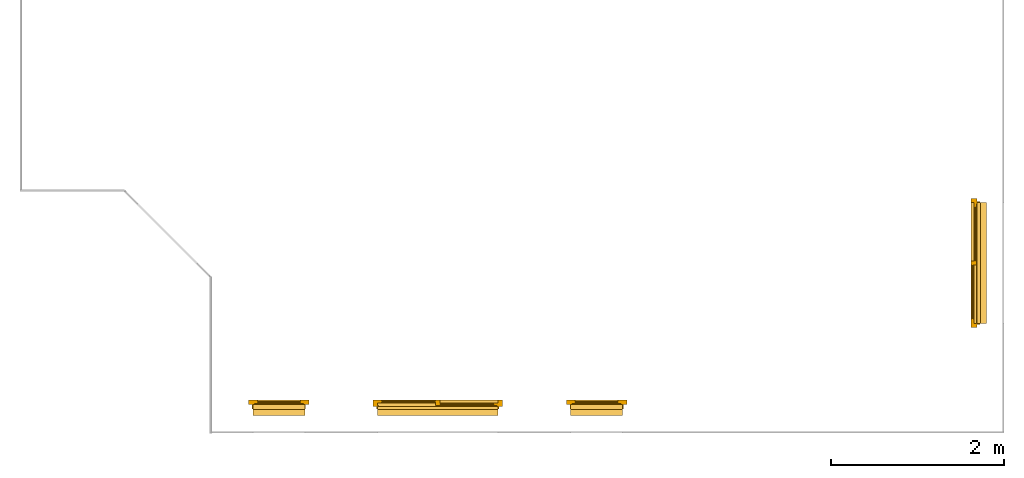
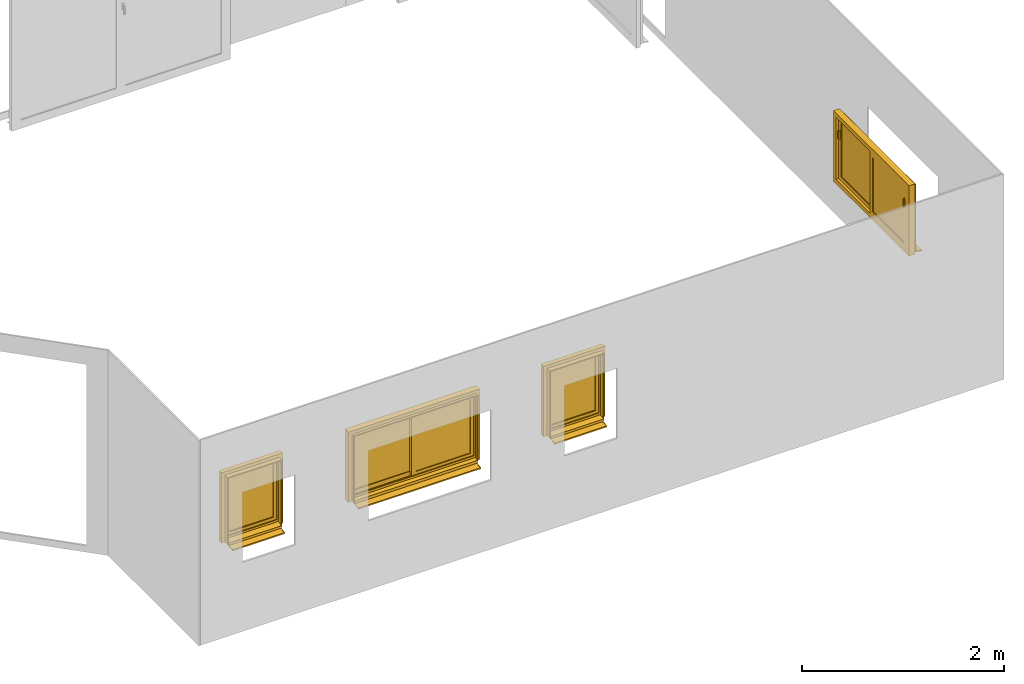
# One storey, part 3 of 6: 4 windows.
"""IFC2X3 building model written with IfcOpenShell, lengths in centimetres."""

from ifc_helpers import new_model, entity, si_unit, converted_unit, derived_unit, direction, frame, origin, place, context, subcontext, project, spatial, faceted_brep, source, transform, mapped, material, material_list, type_object, type_shapes, element, save


model = new_model("IFC2X3")

# Units and contexts
model_context = context("Model", 3, precision=0.001, world=origin(), true_north=direction((6.12303176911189e-17, 1.0)))
body_context = subcontext(model_context, "Body", "Model", "MODEL_VIEW")
ifc_project = project(units=[si_unit("LENGTHUNIT", "METRE", prefix="CENTI"), si_unit("AREAUNIT", "SQUARE_METRE"), si_unit("VOLUMEUNIT", "CUBIC_METRE"), converted_unit("PLANEANGLEUNIT", "DEGREE", entity("IfcRatioMeasure", 0.0174532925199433), si_unit("PLANEANGLEUNIT", "RADIAN"), dimensions=[0, 0, 0, 0, 0, 0, 0]), si_unit("MASSUNIT", "GRAM", prefix="KILO"), derived_unit("MASSDENSITYUNIT", [(si_unit("MASSUNIT", "GRAM", prefix="KILO"), 1), (si_unit("LENGTHUNIT", "METRE"), -3)]), derived_unit("MOMENTOFINERTIAUNIT", [(si_unit("LENGTHUNIT", "METRE"), 4)]), si_unit("TIMEUNIT", "SECOND"), si_unit("FREQUENCYUNIT", "HERTZ"), si_unit("THERMODYNAMICTEMPERATUREUNIT", "DEGREE_CELSIUS"), derived_unit("THERMALTRANSMITTANCEUNIT", [(si_unit("MASSUNIT", "GRAM", prefix="KILO"), 1), (si_unit("THERMODYNAMICTEMPERATUREUNIT", "KELVIN"), -1), (si_unit("TIMEUNIT", "SECOND"), -3)]), derived_unit("VOLUMETRICFLOWRATEUNIT", [(si_unit("LENGTHUNIT", "METRE"), 3), (si_unit("TIMEUNIT", "SECOND"), -1)]), si_unit("ELECTRICCURRENTUNIT", "AMPERE"), si_unit("ELECTRICVOLTAGEUNIT", "VOLT"), si_unit("POWERUNIT", "WATT"), si_unit("FORCEUNIT", "NEWTON", prefix="KILO"), si_unit("ILLUMINANCEUNIT", "LUX"), si_unit("LUMINOUSFLUXUNIT", "LUMEN"), si_unit("LUMINOUSINTENSITYUNIT", "CANDELA"), derived_unit("USERDEFINED", [(si_unit("MASSUNIT", "GRAM", prefix="KILO"), -1), (si_unit("LENGTHUNIT", "METRE"), -2), (si_unit("TIMEUNIT", "SECOND"), 3), (si_unit("LUMINOUSFLUXUNIT", "LUMEN"), 1)]), derived_unit("LINEARVELOCITYUNIT", [(si_unit("LENGTHUNIT", "METRE"), 1), (si_unit("TIMEUNIT", "SECOND"), -1)]), si_unit("PRESSUREUNIT", "PASCAL"), derived_unit("USERDEFINED", [(si_unit("LENGTHUNIT", "METRE"), -2), (si_unit("MASSUNIT", "GRAM", prefix="KILO"), 1), (si_unit("TIMEUNIT", "SECOND"), -2)]), derived_unit("LINEARFORCEUNIT", [(si_unit("MASSUNIT", "GRAM", prefix="KILO"), 1), (si_unit("LENGTHUNIT", "METRE"), 1), (si_unit("TIMEUNIT", "SECOND"), -2), (si_unit("LENGTHUNIT", "METRE"), -1)]), derived_unit("PLANARFORCEUNIT", [(si_unit("MASSUNIT", "GRAM", prefix="KILO"), 1), (si_unit("LENGTHUNIT", "METRE"), 1), (si_unit("TIMEUNIT", "SECOND"), -2), (si_unit("LENGTHUNIT", "METRE"), -2)])], contexts=[model_context])

# Site, building, storey
site_placement = place(None, origin())
site = spatial("IfcSite", under=ifc_project, at=site_placement, Name="Surface", CompositionType="ELEMENT")
building_placement = place(site_placement, origin())
building = spatial("IfcBuilding", under=site, at=building_placement, CompositionType="ELEMENT")
storey_placement = place(building_placement, origin())
storey = spatial("IfcBuildingStorey", under=building, at=storey_placement, Name="1_Rez-de-chaussée", CompositionType="ELEMENT", Elevation=-7.93413063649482e-11)

# Windows
ifc_material_1 = material(Name="Fenêtre - Poignée")
ifc_material_2 = material(Name="Fenêtre - Appui")
ifc_material_3 = material(Name="Fenêtre - Vitrage")
ifc_material_4 = material(Name="Fenêtre - Cadre")
ifc_material_list_1 = material_list([ifc_material_1, ifc_material_2, ifc_material_3, ifc_material_4])
ifc_material_list_2 = material_list([ifc_material_2, ifc_material_4, ifc_material_1, ifc_material_3])
window_style_1 = type_object("IfcWindowStyle", Name="1 Vantail - Droit blanc:60/80", ConstructionType="NOTDEFINED", OperationType="SINGLE_PANEL", ParameterTakesPrecedence=False, Sizeable=False, material=ifc_material_list_2)
shared_shape_1 = source(origin(), body_context, "Body", "Brep", [
    faceted_brep([(8.06460096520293, -58.600000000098, 68.9586046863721), (8.20339292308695, -58.600000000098, 68.8198127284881), (8.20339292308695, -58.600000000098, 67.6884418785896), (8.0667698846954, -58.600000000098, 67.551818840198), (6.93323011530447, -58.600000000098, 67.551818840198), (6.79660707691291, -58.600000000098, 67.6884418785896), (6.79660707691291, -58.600000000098, 68.8198127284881), (6.93539903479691, -58.600000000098, 68.9586046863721), (8.06460096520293, -59.8913548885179, 68.9586046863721), (8.20339292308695, -59.833865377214, 68.8198127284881), (8.20339292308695, -61.164600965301, 67.4890771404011), (8.20339292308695, -61.164600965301, 58.7552117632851), (8.20339292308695, -60.0332301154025, 58.7552117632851), (8.20339292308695, -60.0332301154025, 67.0204479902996), (8.20339292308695, -59.3652362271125, 67.6884418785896), (8.0667698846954, -59.3086451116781, 67.551818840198), (6.93323011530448, -59.3086451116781, 67.551818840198), (6.79660707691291, -59.3652362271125, 67.6884418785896), (6.79660707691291, -60.0332301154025, 67.0204479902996), (6.79660707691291, -60.0332301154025, 58.7552117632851), (6.79660707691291, -61.164600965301, 58.7552117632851), (6.79660707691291, -61.164600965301, 67.4890771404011), (6.79660707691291, -59.833865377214, 68.8198127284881), (6.93539903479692, -59.8913548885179, 68.9586046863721), (8.06460096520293, -61.303392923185, 67.546566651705), (8.0667698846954, -59.8966070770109, 66.9638568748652), (6.93323011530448, -59.8966070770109, 66.9638568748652), (6.93539903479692, -61.303392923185, 67.546566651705), (8.06460096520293, -61.303392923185, 58.7552117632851), (6.93539903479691, -61.303392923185, 58.7552117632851), (6.93323011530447, -59.8966070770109, 58.7552117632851), (8.0667698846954, -59.8966070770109, 58.7552117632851)], [[[0, 1, 2, 3, 4, 5, 6, 7]], [[1, 0, 8, 9]], [[2, 1, 9, 10, 11, 12, 13, 14]], [[3, 2, 14, 15]], [[4, 3, 15, 16]], [[5, 4, 16, 17]], [[6, 5, 17, 18, 19, 20, 21, 22]], [[7, 6, 22, 23]], [[0, 7, 23, 8]], [[9, 8, 24, 10]], [[15, 14, 13, 25]], [[16, 15, 25, 26]], [[17, 16, 26, 18]], [[23, 22, 21, 27]], [[8, 23, 27, 24]], [[28, 29, 20, 19, 30, 31, 12, 11]], [[10, 24, 28, 11]], [[25, 13, 12, 31]], [[26, 25, 31, 30]], [[18, 26, 30, 19]], [[27, 21, 20, 29]], [[24, 27, 29, 28]]]),
    faceted_brep([(8.20000000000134, -58.6000000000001, 70.7552117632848), (6.79999999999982, -58.6000000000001, 70.7552117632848), (6.29999999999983, -58.6000000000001, 70.2552117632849), (6.29999999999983, -58.6000000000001, 63.2552117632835), (6.79999999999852, -58.6000000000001, 62.7552117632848), (8.20000000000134, -58.6000000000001, 62.7552117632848), (8.69999999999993, -58.6000000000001, 63.2552117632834), (8.69999999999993, -58.6000000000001, 70.2552117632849), (8.20000000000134, -58.0, 70.7552117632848), (8.69999999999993, -58.0, 70.2552117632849), (8.69999999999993, -58.0, 63.2552117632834), (8.20000000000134, -58.0, 62.7552117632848), (6.79999999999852, -58.0, 62.7552117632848), (6.29999999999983, -58.0, 63.2552117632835), (6.29999999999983, -58.0, 70.2552117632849), (6.79999999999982, -58.0, 70.7552117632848)], [[[0, 1, 2, 3, 4, 5, 6, 7]], [[8, 9, 10, 11, 12, 13, 14, 15]], [[1, 0, 8, 15]], [[2, 1, 15, 14]], [[3, 2, 14, 13]], [[4, 3, 13, 12]], [[5, 4, 12, 11]], [[6, 5, 11, 10]], [[7, 6, 10, 9]], [[0, 7, 9, 8]]]),
    faceted_brep([(65.0, -40.4999999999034, 4.78224270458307), (65.0, -49.4999999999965, 5.72818082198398), (65.0, -49.4999999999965, 6.75521176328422), (65.0, -50.0, 6.75521176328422), (65.0, -50.0, 5.25521176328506), (65.0, -41.0, 4.30927364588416), (65.0, -41.0, 3.27922317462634), (65.0, -40.4999999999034, 3.2266710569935), (5.0, -40.4999999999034, 4.78224270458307), (5.0, -40.4999999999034, 3.2266710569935), (5.0, -41.0, 3.27922317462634), (5.0, -41.0, 4.30927364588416), (5.0, -50.0, 5.25521176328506), (5.0, -50.0, 6.75521176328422), (5.0, -49.4999999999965, 6.75521176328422), (5.0, -49.4999999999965, 5.72818082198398)], [[[0, 1, 2, 3, 4, 5, 6, 7]], [[8, 9, 10, 11, 12, 13, 14, 15]], [[1, 0, 8, 15]], [[2, 1, 15, 14]], [[3, 2, 14, 13]], [[4, 3, 13, 12]], [[5, 4, 12, 11]], [[6, 5, 11, 10]], [[7, 6, 10, 9]], [[0, 7, 9, 8]]]),
    faceted_brep([(5.0, -40.4999999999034, 4.92483522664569), (5.0, -40.4999999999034, 4.78224270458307), (5.0, -49.4999999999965, 5.72818082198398), (5.0, -49.4999999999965, 6.23093496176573), (5.0, -40.8581886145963, 5.32264398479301), (5.0, -40.6027420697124, 5.19248746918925), (5.49999999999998, -49.4999999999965, 6.23093496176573), (5.49999999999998, -49.4999999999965, 5.72818082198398), (5.49999999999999, -40.4999999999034, 4.78224270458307), (5.49999999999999, -40.4999999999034, 4.92483522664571), (5.49999999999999, -40.6027420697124, 5.19248746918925), (5.49999999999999, -40.8581886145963, 5.32264398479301)], [[[0, 1, 2, 3, 4, 5]], [[6, 7, 8, 9, 10, 11]], [[2, 1, 8, 7]], [[3, 2, 7, 6]], [[4, 3, 6, 11]], [[4, 11, 10, 5]], [[10, 9, 0, 5]], [[1, 0, 9, 8]]]),
    faceted_brep([(64.5, -40.4999999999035, 4.92483522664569), (64.5, -40.4999999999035, 4.78224270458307), (64.5, -49.4999999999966, 5.72818082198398), (64.5, -49.4999999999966, 6.23093496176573), (64.5, -40.8581886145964, 5.322643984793), (64.5, -40.6027420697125, 5.19248746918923), (65.0, -49.4999999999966, 6.23093496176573), (65.0, -49.4999999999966, 5.72818082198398), (65.0, -40.4999999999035, 4.78224270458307), (65.0, -40.4999999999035, 4.92483522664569), (65.0, -40.6027420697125, 5.19248746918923), (65.0, -40.8581886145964, 5.322643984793)], [[[0, 1, 2, 3, 4, 5]], [[6, 7, 8, 9, 10, 11]], [[2, 1, 8, 7]], [[3, 2, 7, 6]], [[4, 3, 6, 11]], [[4, 11, 10, 5]], [[10, 9, 0, 5]], [[1, 0, 9, 8]]]),
    faceted_brep([(10.0, -55.4000000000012, 16.7552117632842), (10.0, -55.4000000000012, 81.7552117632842), (60.0, -55.4000000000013, 81.7552117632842), (60.0, -55.4000000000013, 16.7552117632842), (10.0, -56.6000000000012, 16.7552117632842), (10.0, -56.6000000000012, 81.7552117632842), (60.0, -56.6000000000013, 81.7552117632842), (60.0, -56.6000000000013, 16.7552117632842)], [[[0, 1, 2, 3]], [[1, 0, 4, 5]], [[3, 2, 6, 7]], [[0, 3, 7, 4]], [[4, 7, 6, 5]], [[2, 1, 5, 6]]]),
    faceted_brep([(10.0, -54.0, 81.7552117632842), (10.0, -58.0, 81.7552117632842), (10.0, -58.0, 16.7552117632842), (10.0, -54.0, 16.7552117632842), (60.0, -58.0, 16.7552117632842), (60.0, -54.0, 16.7552117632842), (60.0, -58.0, 81.7552117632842), (65.0, -58.0, 11.7552117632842), (65.0, -58.0, 86.7552117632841), (5.0, -58.0, 86.7552117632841), (5.0, -58.0, 11.7552117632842), (60.0, -54.0, 81.7552117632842), (5.0, -54.0, 11.7552117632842), (5.0, -54.0, 86.7552117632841), (65.0, -54.0, 86.7552117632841), (65.0, -54.0, 11.7552117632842)], [[[0, 1, 2, 3]], [[3, 2, 4, 5]], [[2, 1, 6, 4], [7, 8, 9, 10]], [[5, 4, 6, 11]], [[5, 11, 0, 3], [12, 13, 14, 15]], [[9, 13, 12, 10]], [[10, 12, 15, 7]], [[7, 15, 14, 8]], [[11, 6, 1, 0]], [[8, 14, 13, 9]]], outer=[[True], [True], [False, True], [True], [False, True], [True], [True], [True], [True], [True]]),
    faceted_brep([(0.0, -58.0, 6.75521176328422), (0.0, -53.0, 6.75521176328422), (5.0, -53.0, 6.75521176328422), (5.0, -48.0, 6.75521176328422), (65.0, -48.0, 6.75521176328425), (65.0, -53.0, 6.75521176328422), (70.0, -53.0, 6.75521176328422), (70.0, -58.0, 6.75521176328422), (0.0, -58.0, 91.7552117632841), (0.0, -53.0, 91.7552117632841), (70.0, -53.0, 91.7552117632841), (65.0, -53.0, 10.6928260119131), (5.0, -53.0, 10.6928260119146), (6.49999999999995, -53.0, 85.2552117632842), (6.49999999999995, -53.0, 13.2552117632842), (63.5, -53.0, 13.2552117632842), (63.5, -53.0, 85.2552117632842), (5.0, -47.0, 9.08513085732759), (5.0, -47.0, 6.25521176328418), (5.0, -48.0, 6.25521176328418), (65.0, -48.0, 6.25521176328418), (65.0, -47.0, 6.25521176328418), (65.0, -47.0, 9.08513085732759), (70.0, -58.0, 91.7552117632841), (65.0, -58.0, 86.7552117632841), (65.0, -58.0, 11.7552117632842), (5.0, -58.0, 11.7552117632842), (5.0, -58.0, 86.7552117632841), (6.49999999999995, -54.0, 85.2552117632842), (6.49999999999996, -54.0, 13.2552117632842), (63.5, -54.0, 13.2552117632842), (63.5, -54.0, 85.2552117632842), (65.0, -54.0, 86.7552117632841), (5.0, -54.0, 86.7552117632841), (5.0, -54.0, 11.7552117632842), (65.0, -54.0, 11.7552117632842)], [[[0, 1, 2, 3, 4, 5, 6, 7]], [[1, 0, 8, 9]], [[1, 9, 10, 6, 5, 11, 12, 2], [13, 14, 15, 16]], [[12, 17, 18, 19, 3, 2]], [[3, 19, 20, 4]], [[4, 20, 21, 22, 11, 5]], [[6, 10, 23, 7]], [[0, 7, 23, 8], [24, 25, 26, 27]], [[13, 28, 29, 14]], [[29, 30, 15, 14]], [[31, 16, 15, 30]], [[17, 12, 11, 22]], [[32, 33, 34, 35], [28, 31, 30, 29]], [[34, 33, 27, 26]], [[26, 25, 35, 34]], [[24, 32, 35, 25]], [[18, 17, 22, 21]], [[19, 18, 21, 20]], [[13, 16, 31, 28]], [[33, 32, 24, 27]], [[10, 9, 8, 23]]]),
    faceted_brep([(5.0, -48.0, 6.75521176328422), (5.0, -53.0, 6.75521176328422), (4.0, -53.0, 6.75521176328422), (4.0, -48.0, 6.75521176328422), (5.0, -48.0, 86.7552117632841), (5.0, -53.0, 86.7552117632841), (65.0, -53.0, 86.7552117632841), (65.0, -53.0, 6.75521176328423), (66.0, -53.0, 6.75521176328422), (66.0, -53.0, 87.7552117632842), (4.0, -53.0, 87.7552117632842), (4.0, -48.0, 87.7552117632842), (66.0, -48.0, 87.7552117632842), (66.0, -48.0, 6.75521176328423), (65.0, -48.0, 6.75521176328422), (65.0, -48.0, 86.7552117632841)], [[[0, 1, 2, 3]], [[1, 0, 4, 5]], [[2, 1, 5, 6, 7, 8, 9, 10]], [[3, 2, 10, 11]], [[0, 3, 11, 12, 13, 14, 15, 4]], [[6, 15, 14, 7]], [[14, 13, 8, 7]], [[12, 9, 8, 13]], [[5, 4, 15, 6]], [[11, 10, 9, 12]]]),
])
type_shapes(window_style_1, [shared_shape_1])
window_1_placement = place(storey_placement, frame((-1087.17726031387, -181.007682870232, 73.2447882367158), z_axis=(0.0, 0.0, 1.0), x_axis=(-1.0, 0.0, 0.0)))
element("IfcWindow", 1, at=window_1_placement, inside=storey, type_object=window_style_1, material=ifc_material_list_1, Name="1 Vantail - Droit blanc:60/80", ObjectType="1 Vantail - Droit blanc:60/80", OverallHeight=108.0, OverallWidth=69.9999999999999, context=body_context, shape_type="MappedRepresentation", body=[
    mapped(shared_shape_1, transform((0.0, 0.0, 0.0), scale=1.0)),
])
ifc_material_list_3 = material_list([ifc_material_1, ifc_material_2, ifc_material_3, ifc_material_4])
window_2_placement = place(storey_placement, frame((-1455.17726031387, -181.007682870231, 73.2447882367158), z_axis=(0.0, 0.0, 1.0), x_axis=(-1.0, 0.0, 0.0)))
element("IfcWindow", 2, at=window_2_placement, inside=storey, type_object=window_style_1, material=ifc_material_list_3, Name="1 Vantail - Droit blanc:60/80", ObjectType="1 Vantail - Droit blanc:60/80", OverallHeight=108.0, OverallWidth=69.9999999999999, context=body_context, shape_type="MappedRepresentation", body=[
    mapped(shared_shape_1, transform((0.0, 0.0, 0.0), scale=1.0)),
])
ifc_material_list_4 = material_list([ifc_material_1, ifc_material_2, ifc_material_3, ifc_material_4])
ifc_material_list_5 = material_list([ifc_material_4, ifc_material_3, ifc_material_1, ifc_material_2])
window_style_2 = type_object("IfcWindowStyle", Name="2 Vantaux coulissants - Droits blanc:140/80", ConstructionType="NOTDEFINED", OperationType="DOUBLE_PANEL_VERTICAL", ParameterTakesPrecedence=False, Sizeable=False, material=ifc_material_list_5)
shared_shape_2 = source(origin(), body_context, "Body", "Brep", [
    faceted_brep([(8.75313182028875, -57.0, 61.755211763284), (7.09522174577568, -57.0, 61.755211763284), (7.09522174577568, -56.4999999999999, 61.755211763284), (8.0, -56.4999999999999, 61.755211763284), (8.0, -55.0, 61.755211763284), (9.0, -55.0, 61.755211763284), (9.0, -56.753131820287, 61.755211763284), (8.0, -55.0, 71.7552117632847), (8.0, -56.4999999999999, 71.7552117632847), (7.0952217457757, -56.4999999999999, 71.7552117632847), (7.0952217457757, -57.0, 71.7552117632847), (8.7531318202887, -57.0, 71.7552117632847), (9.0, -56.753131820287, 71.7552117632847), (9.0, -55.0, 71.7552117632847), (6.50000000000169, -56.4999999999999, 62.3504335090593), (6.50000000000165, -56.4999999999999, 71.1599900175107), (6.67433641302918, -56.4999999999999, 71.5808753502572), (6.67433641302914, -56.4999999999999, 61.9295481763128), (6.50000000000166, -57.0, 71.1599900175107), (6.50000000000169, -57.0, 62.3504335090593), (6.67433641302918, -57.0, 71.5808753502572), (6.67433641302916, -57.0, 61.9295481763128)], [[[0, 1, 2, 3, 4, 5, 6]], [[7, 8, 9, 10, 11, 12, 13]], [[12, 6, 5, 13]], [[13, 5, 4, 7]], [[7, 4, 3, 8]], [[14, 15, 16, 9, 8, 3, 2, 17]], [[18, 15, 14, 19]], [[1, 0, 11, 10, 20, 18, 19, 21]], [[11, 0, 6, 12]], [[9, 16, 20, 10]], [[15, 18, 20, 16]], [[14, 17, 21, 19]], [[2, 1, 21, 17]]]),
    faceted_brep([(142.0, -59.5000000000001, 61.755211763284), (142.904778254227, -59.5000000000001, 61.755211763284), (142.904778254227, -60.0, 61.755211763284), (141.246868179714, -60.0, 61.755211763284), (141.0, -59.7531318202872, 61.755211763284), (141.0, -58.0, 61.755211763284), (142.0, -58.0, 61.755211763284), (141.0, -58.0, 71.7552117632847), (141.0, -59.7531318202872, 71.7552117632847), (141.246868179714, -60.0, 71.7552117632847), (142.904778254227, -60.0, 71.7552117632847), (142.904778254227, -59.5000000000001, 71.7552117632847), (142.0, -59.5000000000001, 71.7552117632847), (142.0, -58.0, 71.7552117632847), (143.325663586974, -59.5000000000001, 71.5808753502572), (143.500000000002, -59.5000000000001, 71.1599900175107), (143.500000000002, -59.5000000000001, 62.3504335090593), (143.325663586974, -59.5000000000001, 61.9295481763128), (143.500000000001, -60.0, 62.3504335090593), (143.500000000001, -60.0, 71.1599900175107), (143.325663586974, -60.0, 61.9295481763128), (143.325663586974, -60.0, 71.5808753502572)], [[[0, 1, 2, 3, 4, 5, 6]], [[7, 8, 9, 10, 11, 12, 13]], [[5, 4, 8, 7]], [[6, 5, 7, 13]], [[0, 6, 13, 12]], [[1, 0, 12, 11, 14, 15, 16, 17]], [[18, 16, 15, 19]], [[20, 18, 19, 21, 10, 9, 3, 2]], [[4, 3, 9, 8]], [[10, 21, 14, 11]], [[14, 21, 19, 15]], [[18, 20, 17, 16]], [[17, 20, 2, 1]]]),
    faceted_brep([(145.0, -40.4999999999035, 4.78224270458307), (145.0, -49.4999999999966, 5.72818082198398), (145.0, -49.4999999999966, 6.75521176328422), (145.0, -50.0, 6.75521176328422), (145.0, -50.0, 5.25521176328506), (145.0, -41.0, 4.30927364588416), (145.0, -41.0, 3.27922317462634), (145.0, -40.4999999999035, 3.2266710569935), (5.0, -40.4999999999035, 4.78224270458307), (5.0, -40.4999999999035, 3.2266710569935), (5.0, -41.0, 3.27922317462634), (5.0, -41.0, 4.30927364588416), (5.0, -50.0, 5.25521176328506), (5.0, -50.0, 6.75521176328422), (5.0, -49.4999999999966, 6.75521176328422), (5.0, -49.4999999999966, 5.72818082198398)], [[[0, 1, 2, 3, 4, 5, 6, 7]], [[8, 9, 10, 11, 12, 13, 14, 15]], [[1, 0, 8, 15]], [[2, 1, 15, 14]], [[3, 2, 14, 13]], [[4, 3, 13, 12]], [[5, 4, 12, 11]], [[6, 5, 11, 10]], [[7, 6, 10, 9]], [[0, 7, 9, 8]]]),
    faceted_brep([(5.0, -40.4999999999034, 4.92483522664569), (5.0, -40.4999999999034, 4.78224270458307), (5.0, -49.4999999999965, 5.72818082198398), (5.0, -49.4999999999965, 6.23093496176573), (5.0, -40.8581886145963, 5.32264398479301), (5.0, -40.6027420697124, 5.19248746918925), (5.50000000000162, -49.4999999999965, 6.23093496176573), (5.50000000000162, -49.4999999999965, 5.72818082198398), (5.50000000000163, -40.4999999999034, 4.78224270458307), (5.50000000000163, -40.4999999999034, 4.92483522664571), (5.50000000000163, -40.6027420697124, 5.19248746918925), (5.50000000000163, -40.8581886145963, 5.32264398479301)], [[[0, 1, 2, 3, 4, 5]], [[6, 7, 8, 9, 10, 11]], [[2, 1, 8, 7]], [[3, 2, 7, 6]], [[4, 3, 6, 11]], [[4, 11, 10, 5]], [[10, 9, 0, 5]], [[1, 0, 9, 8]]]),
    faceted_brep([(144.500000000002, -40.4999999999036, 4.92483522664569), (144.500000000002, -40.4999999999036, 4.78224270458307), (144.500000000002, -49.4999999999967, 5.72818082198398), (144.500000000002, -49.4999999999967, 6.23093496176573), (144.500000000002, -40.8581886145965, 5.322643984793), (144.500000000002, -40.6027420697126, 5.19248746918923), (145.0, -49.4999999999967, 6.23093496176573), (145.0, -49.4999999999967, 5.72818082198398), (145.0, -40.4999999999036, 4.78224270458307), (145.0, -40.4999999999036, 4.92483522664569), (145.0, -40.6027420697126, 5.19248746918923), (145.0, -40.8581886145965, 5.322643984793)], [[[0, 1, 2, 3, 4, 5]], [[6, 7, 8, 9, 10, 11]], [[2, 1, 8, 7]], [[3, 2, 7, 6]], [[4, 3, 6, 11]], [[4, 11, 10, 5]], [[10, 9, 0, 5]], [[1, 0, 9, 8]]]),
    faceted_brep([(72.5000000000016, -52.9000000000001, 81.7552117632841), (72.5000000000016, -52.9000000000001, 16.7552117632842), (10.0, -52.8999999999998, 16.7552117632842), (10.0, -52.8999999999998, 81.7552117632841), (72.5000000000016, -54.1000000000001, 81.7552117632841), (72.5000000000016, -54.1000000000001, 16.7552117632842), (10.0, -54.0999999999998, 16.7552117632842), (10.0, -54.0999999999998, 81.7552117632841)], [[[0, 1, 2, 3]], [[1, 0, 4, 5]], [[2, 1, 5, 6]], [[3, 2, 6, 7]], [[4, 7, 6, 5]], [[0, 3, 7, 4]]]),
    faceted_brep([(77.5000000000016, -52.0, 86.7552117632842), (77.5000000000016, -55.0, 86.7552117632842), (77.5000000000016, -55.0, 11.7552117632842), (77.5000000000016, -52.0, 11.7552117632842), (5.0, -55.0, 11.7552117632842), (5.0, -52.0, 11.7552117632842), (5.0, -55.0, 86.7552117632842), (10.0, -55.0, 16.7552117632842), (10.0, -55.0, 81.7552117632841), (72.5000000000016, -55.0, 81.7552117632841), (72.5000000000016, -55.0, 16.7552117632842), (5.0, -52.0, 86.7552117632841), (72.5000000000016, -52.0, 16.7552117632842), (72.5000000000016, -52.0, 81.7552117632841), (10.0, -52.0, 81.7552117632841), (10.0, -52.0, 16.7552117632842)], [[[0, 1, 2, 3]], [[3, 2, 4, 5]], [[2, 1, 6, 4], [7, 8, 9, 10]], [[5, 4, 6, 11]], [[5, 11, 0, 3], [12, 13, 14, 15]], [[9, 13, 12, 10]], [[10, 12, 15, 7]], [[7, 15, 14, 8]], [[11, 6, 1, 0]], [[8, 14, 13, 9]]]),
    faceted_brep([(77.5000000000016, -55.9000000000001, 16.7552117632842), (77.5000000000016, -55.9000000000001, 81.7552117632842), (140.0, -55.9000000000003, 81.7552117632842), (140.0, -55.9000000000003, 16.7552117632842), (77.5000000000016, -57.1000000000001, 16.7552117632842), (77.5000000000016, -57.1000000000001, 81.7552117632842), (140.0, -57.1000000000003, 81.7552117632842), (140.0, -57.1000000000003, 16.7552117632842)], [[[0, 1, 2, 3]], [[1, 0, 4, 5]], [[3, 2, 6, 7]], [[0, 3, 7, 4]], [[4, 7, 6, 5]], [[2, 1, 5, 6]]]),
    faceted_brep([(77.5000000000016, -55.0, 81.7552117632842), (77.5000000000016, -58.0, 81.7552117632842), (77.5000000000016, -58.0, 16.7552117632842), (77.5000000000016, -55.0, 16.7552117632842), (140.0, -58.0, 16.7552117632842), (140.0, -55.0, 16.7552117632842), (140.0, -58.0, 81.7552117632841), (145.0, -58.0, 11.7552117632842), (145.0, -58.0, 86.7552117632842), (72.5000000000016, -58.0, 86.7552117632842), (72.5000000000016, -58.0, 11.7552117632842), (140.0, -55.0, 81.7552117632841), (72.5000000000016, -55.0, 11.7552117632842), (72.5000000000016, -55.0, 86.7552117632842), (145.0, -55.0, 86.7552117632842), (145.0, -55.0, 11.7552117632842)], [[[0, 1, 2, 3]], [[3, 2, 4, 5]], [[2, 1, 6, 4], [7, 8, 9, 10]], [[5, 4, 6, 11]], [[5, 11, 0, 3], [12, 13, 14, 15]], [[9, 13, 12, 10]], [[10, 12, 15, 7]], [[7, 15, 14, 8]], [[11, 6, 1, 0]], [[8, 14, 13, 9]]], outer=[[True], [True], [False, True], [True], [False, True], [True], [True], [True], [True], [True]]),
    faceted_brep([(0.0, -58.0, 6.75521176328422), (0.0, -51.0, 6.75521176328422), (5.0, -51.0, 6.75521176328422), (5.0, -48.0, 6.75521176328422), (145.0, -48.0, 6.75521176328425), (145.0, -51.0, 6.75521176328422), (150.0, -51.0, 6.75521176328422), (150.0, -58.0, 6.75521176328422), (0.0, -58.0, 91.7552117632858), (0.0, -51.0, 91.7552117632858), (150.0, -51.0, 91.7552117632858), (145.0, -51.0, 10.6928260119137), (5.0, -51.0, 10.6928260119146), (6.50000000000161, -51.0, 85.2552117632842), (6.50000000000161, -51.0, 13.2552117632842), (143.500000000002, -51.0, 13.2552117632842), (143.500000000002, -51.0, 85.2552117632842), (5.0, -47.0, 9.62102924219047), (5.0, -47.0, 6.25521176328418), (5.0, -48.0, 6.25521176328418), (145.0, -48.0, 6.25521176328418), (145.0, -47.0, 6.25521176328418), (145.0, -47.0, 9.62102924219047), (150.0, -58.0, 91.7552117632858), (145.0, -58.0, 86.7552117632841), (145.0, -58.0, 11.7552117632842), (5.0, -58.0, 11.7552117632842), (5.0, -58.0, 86.7552117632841), (6.50000000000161, -52.0, 85.2552117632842), (6.50000000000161, -52.0, 13.2552117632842), (143.500000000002, -52.0, 13.2552117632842), (143.500000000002, -52.0, 85.2552117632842), (145.0, -52.0, 86.7552117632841), (5.0, -52.0, 86.7552117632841), (5.0, -52.0, 11.7552117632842), (145.0, -52.0, 11.7552117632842)], [[[0, 1, 2, 3, 4, 5, 6, 7]], [[1, 0, 8, 9]], [[1, 9, 10, 6, 5, 11, 12, 2], [13, 14, 15, 16]], [[12, 17, 18, 19, 3, 2]], [[3, 19, 20, 4]], [[4, 20, 21, 22, 11, 5]], [[6, 10, 23, 7]], [[0, 7, 23, 8], [24, 25, 26, 27]], [[13, 28, 29, 14]], [[29, 30, 15, 14]], [[31, 16, 15, 30]], [[17, 12, 11, 22]], [[32, 33, 34, 35], [28, 31, 30, 29]], [[34, 33, 27, 26]], [[26, 25, 35, 34]], [[24, 32, 35, 25]], [[18, 17, 22, 21]], [[19, 18, 21, 20]], [[13, 16, 31, 28]], [[33, 32, 24, 27]], [[10, 9, 8, 23]]]),
    faceted_brep([(5.0, -48.0, 6.75521176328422), (5.0, -51.0, 6.75521176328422), (4.0, -51.0, 6.75521176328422), (4.0, -48.0, 6.75521176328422), (5.0, -48.0, 86.7552117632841), (5.0, -51.0, 86.7552117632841), (145.0, -51.0, 86.7552117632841), (145.0, -51.0, 6.75521176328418), (146.0, -51.0, 6.75521176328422), (146.0, -51.0, 87.7552117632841), (4.0, -51.0, 87.7552117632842), (4.0, -48.0, 87.7552117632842), (146.0, -48.0, 87.7552117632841), (146.0, -48.0, 6.75521176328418), (145.0, -48.0, 6.75521176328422), (145.0, -48.0, 86.7552117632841)], [[[0, 1, 2, 3]], [[1, 0, 4, 5]], [[2, 1, 5, 6, 7, 8, 9, 10]], [[3, 2, 10, 11]], [[0, 3, 11, 12, 13, 14, 15, 4]], [[6, 15, 14, 7]], [[14, 13, 8, 7]], [[12, 9, 8, 13]], [[5, 4, 15, 6]], [[11, 10, 9, 12]]]),
])
type_shapes(window_style_2, [shared_shape_2])
window_3_placement = place(storey_placement, frame((-1231.17726031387, -181.007682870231, 73.2447882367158), z_axis=(0.0, 0.0, 1.0), x_axis=(-1.0, 0.0, 0.0)))
element("IfcWindow", 3, at=window_3_placement, inside=storey, type_object=window_style_2, material=ifc_material_list_4, Name="2 Vantaux coulissants - Droits blanc:140/80", ObjectType="2 Vantaux coulissants - Droits blanc:140/80", OverallHeight=108.0, OverallWidth=150.000000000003, context=body_context, shape_type="MappedRepresentation", body=[
    mapped(shared_shape_2, transform((0.0, 0.0, 0.0), scale=1.0)),
])
ifc_material_list_6 = material_list([ifc_material_1, ifc_material_2, ifc_material_3, ifc_material_4])
window_4_placement = place(storey_placement, frame((-630.177260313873, 110.992317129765, 73.2447882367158), z_axis=(0.0, 0.0, 1.0), x_axis=(0.0, -1.0, 0.0)))
element("IfcWindow", 4, at=window_4_placement, inside=storey, type_object=window_style_2, material=ifc_material_list_6, Name="2 Vantaux coulissants - Droits blanc:140/80", ObjectType="2 Vantaux coulissants - Droits blanc:140/80", OverallHeight=108.0, OverallWidth=150.000000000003, context=body_context, shape_type="MappedRepresentation", body=[
    mapped(shared_shape_2, transform((0.0, 0.0, 0.0), scale=1.0)),
])

save(model, "model.ifc")
